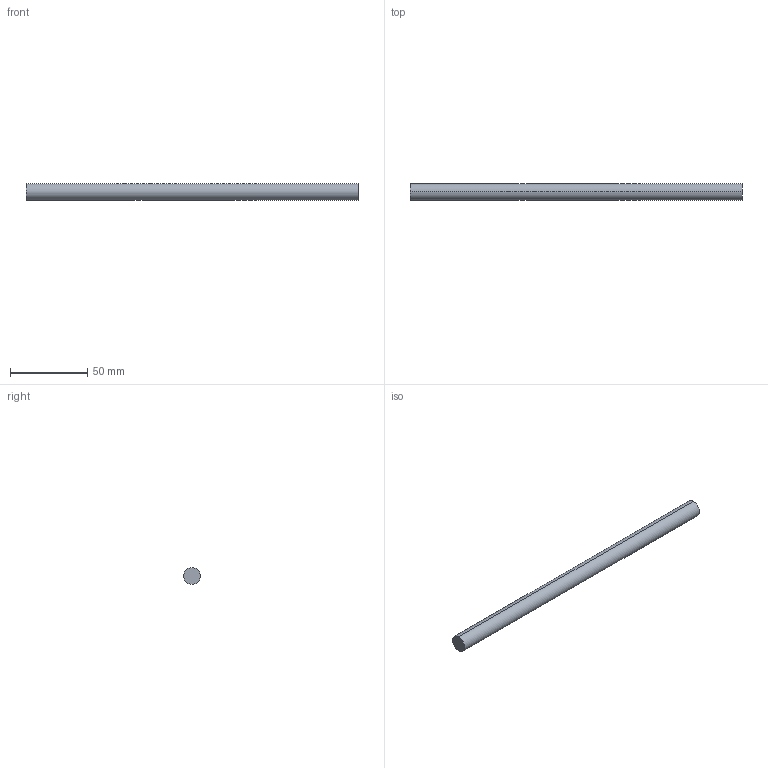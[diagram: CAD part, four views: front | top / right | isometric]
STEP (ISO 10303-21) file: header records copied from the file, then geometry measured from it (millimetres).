
FILE_DESCRIPTION (( 'STEP AP214' ), '1' );
FILE_NAME ('Querreling_Frontblende_Innenlade_KS-16_KAB-300.step', '2010-09-22T15:05:26', ( 'grass' ), ( '' ), 'SwSTEP 2.0', 'SolidWorks 2010', '' );
FILE_SCHEMA (( 'AUTOMOTIVE_DESIGN' ));
Length unit declared in the file: millimetre
Products named in the file (1): Querreling_Frontblende_Innenlade_KS-16_KAB-300
Bounding box: 215 x 11 x 11 mm (x, y, z)
Volume: 20432.1 mm3; surface area: 7619.9 mm2
Topology: 1 solids, 1 shells, 4 faces, 6 edges, 4 vertices
Faces by surface type: cylinder 2, plane 2
Entity records: 128 total; most frequent: DIRECTION 20, CARTESIAN_POINT 15, ORIENTED_EDGE 12, AXIS2_PLACEMENT_3D 9, EDGE_CURVE 6, FACE_OUTER_BOUND 4, CIRCLE 4, EDGE_LOOP 4
